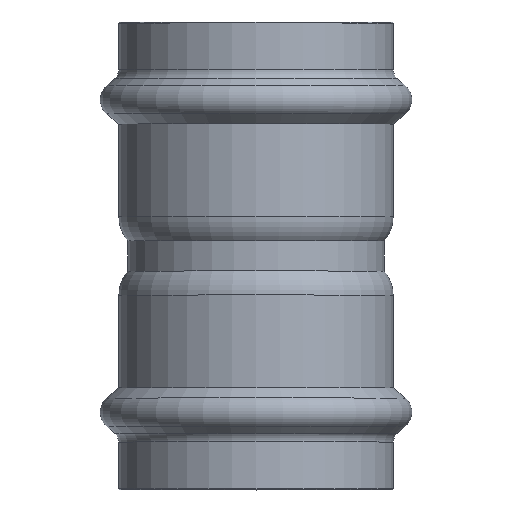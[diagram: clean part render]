
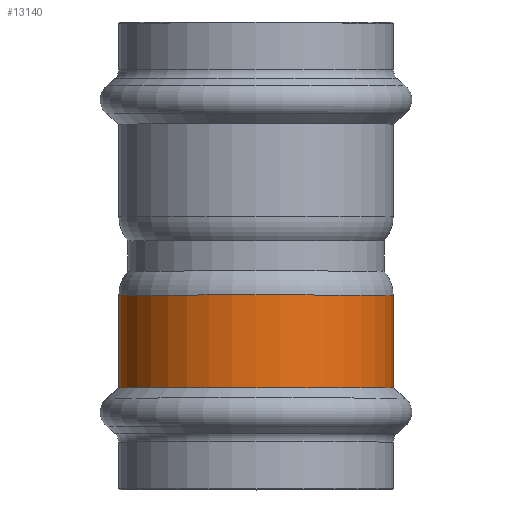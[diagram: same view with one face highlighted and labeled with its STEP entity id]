
A CAD part, top view. The second image highlights one B-rep face of the part: STEP entity #13140.
In plain terms, the highlighted cylindrical face has radius 28.9 mm (diameter 57.8 mm), a partial arc.
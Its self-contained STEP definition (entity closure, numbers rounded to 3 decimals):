
#2730=CARTESIAN_POINT('',(59.906,-33.702,0.));
#2740=VERTEX_POINT('',#2730);
#2830=CARTESIAN_POINT('',(2.106,-33.702,0.));
#2840=VERTEX_POINT('',#2830);
#2870=CARTESIAN_POINT('',(31.006,-33.702,0.));
#2880=DIRECTION('',(0.,1.,0.));
#2890=DIRECTION('',(-1.,0.,0.));
#2900=AXIS2_PLACEMENT_3D('',#2870,#2880,#2890);
#2910=CIRCLE('',#2900,28.9);
#12380=CARTESIAN_POINT('',(59.906,-53.242,
0.));
#12390=VERTEX_POINT('',#12380);
#12420=CARTESIAN_POINT('',(31.006,-53.242,0.));
#12430=DIRECTION('',(0.,1.,0.));
#12440=DIRECTION('',(1.,0.,0.));
#12450=AXIS2_PLACEMENT_3D('',#12420,#12430,#12440);
#12460=CIRCLE('',#12450,28.9);
#12470=CARTESIAN_POINT('',(2.106,-53.242,
0.));
#12480=VERTEX_POINT('',#12470);
#12610=CARTESIAN_POINT('',(31.006,-43.472,0.));
#12620=DIRECTION('',(0.,1.,0.));
#12630=DIRECTION('',(1.,0.,0.));
#12640=AXIS2_PLACEMENT_3D('',#12610,#12620,#12630);
#12650=CYLINDRICAL_SURFACE('',#12640,28.9);
#12660=CARTESIAN_POINT('',(59.906,-43.472,0.));
#12670=DIRECTION('',(0.,1.,0.));
#12680=VECTOR('',#12670,1.);
#12690=LINE('',#12660,#12680);
#12700=EDGE_CURVE('',#12390,#2740,#12690,.T.);
#12730=CARTESIAN_POINT('',(2.106,-43.472,
0.));
#12740=DIRECTION('',(0.,1.,0.));
#12750=VECTOR('',#12740,1.);
#12760=LINE('',#12730,#12750);
#12770=EDGE_CURVE('',#12480,#2840,#12760,.T.);
#13060=EDGE_CURVE('',#2840,#2740,#2910,.T.);
#13070=ORIENTED_EDGE('',*,*,#13060,.F.);
#13080=ORIENTED_EDGE('',*,*,#12700,.T.);
#13090=EDGE_CURVE('',#12480,#12390,#12460,.T.);
#13100=ORIENTED_EDGE('',*,*,#13090,.T.);
#13110=ORIENTED_EDGE('',*,*,#12770,.F.);
#13120=EDGE_LOOP('',(#13110,#13100,#13080,#13070));
#13130=FACE_OUTER_BOUND('',#13120,.T.);
#13140=ADVANCED_FACE('',(#13130),#12650,.T.);
